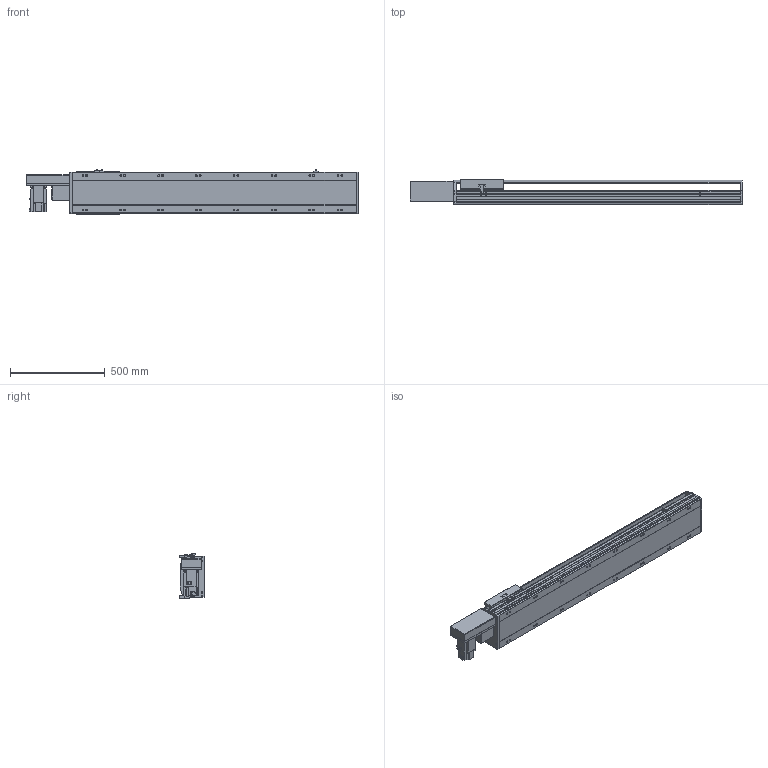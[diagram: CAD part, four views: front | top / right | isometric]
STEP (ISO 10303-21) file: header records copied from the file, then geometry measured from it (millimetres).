
FILE_DESCRIPTION(/* description */ ('STEP AP214'),/* implementation_level */ '2;1');
FILE_NAME(/* name */ 'PBS220-P40-S1150-R-T75-C1-N(0)',/* time_stamp */ '2022-06-11T10:01:01+02:00',/* author */ ('License CC BY-ND 4.0'),/* organization */ ('CADENAS'),/* preprocessor_version */ 'ST-DEVELOPER v18.102',/* originating_system */ 'PARTsolutions',/* authorisation */ ' ');
FILE_SCHEMA (('AUTOMOTIVE_DESIGN {1 0 10303 214 3 1 1}'));
Length unit declared in the file: millimetre
Products named in the file (7): PBS220-P40-S1150-R-T75-C1-N(0); PBS220_sensor; PBS220_plant; PBS220_sliser; T75-p1; PBS220T-R_motors; PBS220-S1150()_body
Assembly tree (8 placements, depth 2):
  PBS220-P40-S1150-R-T75-C1-N(0)
    PBS220_sensor  x3
    PBS220_plant
    PBS220_sliser
    T75-p1
    PBS220T-R_motors
    PBS220-S1150()_body
Bounding box: 1756 x 134 x 238.5 mm (x, y, z)
Volume: 23479021.7 mm3; surface area: 2271726.7 mm2
Topology: 8 solids, 8 shells, 914 faces, 2396 edges, 1558 vertices
Faces by surface type: plane 598, cylinder 276, cone 40
Full cylindrical faces by diameter (mm): 2.013 x4, 4.5 x14, 4.917 x4, 6 x7, 6.647 x8, 8 x10, 8.376 x16, 8.5 x16, 10 x6, 14 x16, 38 x2, 40 x1, 70 x1
Entity records: 25629 total; most frequent: CARTESIAN_POINT 4492, DIRECTION 4455, ORIENTED_EDGE 4106, EDGE_CURVE 2053, AXIS2_PLACEMENT_3D 1555, VERTEX_POINT 1416, LINE 1345, VECTOR 1345
